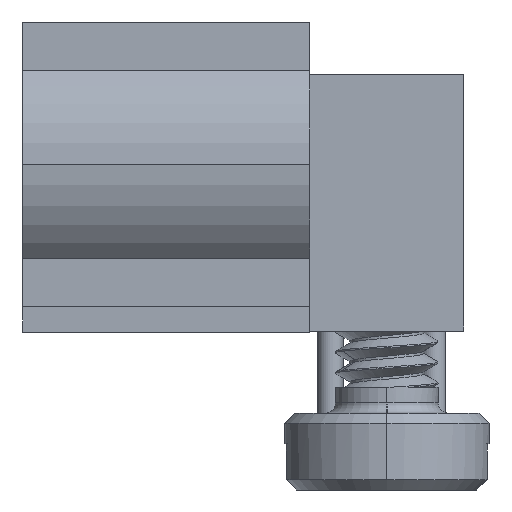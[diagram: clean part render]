
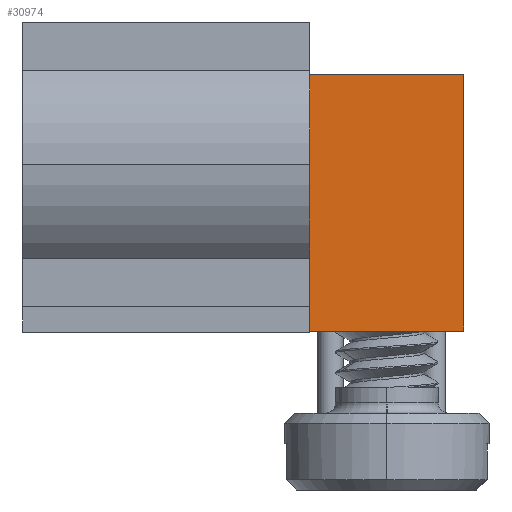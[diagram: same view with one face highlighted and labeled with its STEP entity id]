
A CAD part, left-side view. The second image highlights one B-rep face of the part: STEP entity #30974.
In plain terms, the highlighted planar face has unit normal (-1, 0, 0).
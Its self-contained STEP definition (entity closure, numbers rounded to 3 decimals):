
#6690=EDGE_CURVE('',#13041,#13038,#13042,.T.);
#6698=EDGE_CURVE('',#13052,#13041,#13053,.T.);
#6706=EDGE_CURVE('',#13062,#13052,#13063,.T.);
#6710=EDGE_CURVE('',#13038,#13062,#13067,.T.);
#13038=VERTEX_POINT('',#27154);
#13041=VERTEX_POINT('',#27159);
#13042=LINE('',#27160,#27161);
#13052=VERTEX_POINT('',#27176);
#13053=LINE('',#27177,#27178);
#13062=VERTEX_POINT('',#27192);
#13063=LINE('',#27193,#27194);
#13067=LINE('',#27201,#27202);
#27154=CARTESIAN_POINT('',(-14.0,-2.2,-3.25));
#27159=CARTESIAN_POINT('',(-14.0,-2.2,1.75));
#27160=CARTESIAN_POINT('',(-14.0,-2.2,1.75));
#27161=VECTOR('',#40547,5.0);
#27176=CARTESIAN_POINT('',(-14.0,-5.2,1.75));
#27177=CARTESIAN_POINT('',(-14.0,-5.2,1.75));
#27178=VECTOR('',#40555,3.0);
#27192=CARTESIAN_POINT('',(-14.0,-5.2,-3.25));
#27193=CARTESIAN_POINT('',(-14.0,-5.2,-3.25));
#27194=VECTOR('',#40563,5.0);
#27201=CARTESIAN_POINT('',(-14.0,-2.2,-3.25));
#27202=VECTOR('',#40565,3.0);
#30974=ADVANCED_FACE('',(#40720),#40721,.T.);
#40547=DIRECTION('',(0.0,0.0,-1.0));
#40555=DIRECTION('',(0.0,1.0,0.0));
#40563=DIRECTION('',(0.0,0.0,1.0));
#40565=DIRECTION('',(0.0,-1.0,0.0));
#40720=FACE_OUTER_BOUND('',#47588,.T.);
#40721=PLANE('',#47589);
#47588=EDGE_LOOP('',(#57866,#57867,#57868,#57869));
#47589=AXIS2_PLACEMENT_3D('',#57870,#57871,#57872);
#57866=ORIENTED_EDGE('',*,*,#6710,.T.);
#57867=ORIENTED_EDGE('',*,*,#6706,.T.);
#57868=ORIENTED_EDGE('',*,*,#6698,.T.);
#57869=ORIENTED_EDGE('',*,*,#6690,.T.);
#57870=CARTESIAN_POINT('',(-14.0,-2.2,0.0));
#57871=DIRECTION('',(-1.0,0.0,0.0));
#57872=DIRECTION('',(0.0,0.0,1.0));
